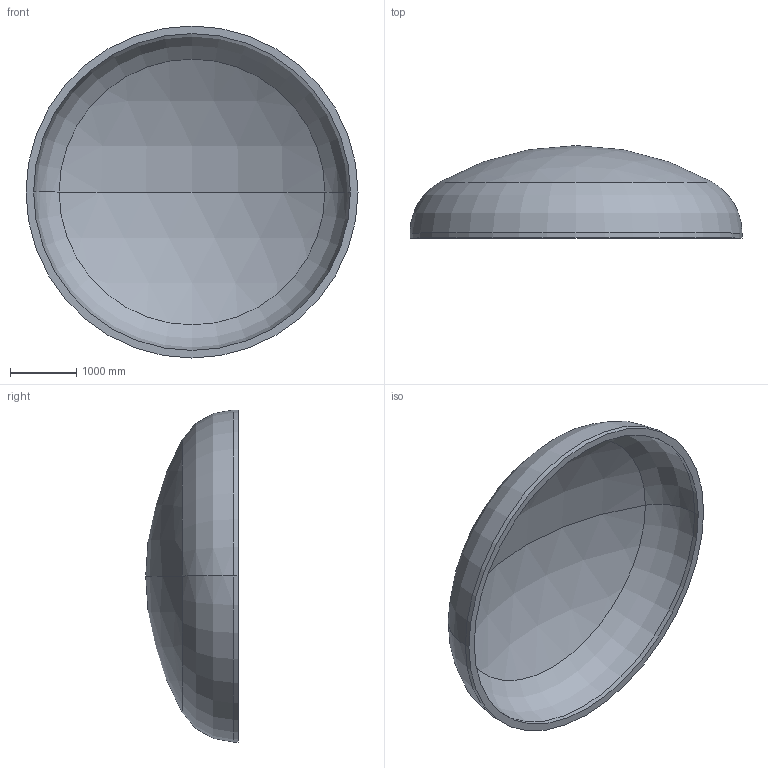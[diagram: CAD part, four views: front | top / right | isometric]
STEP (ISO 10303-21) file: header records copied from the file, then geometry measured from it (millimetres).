
FILE_DESCRIPTION (( 'STEP AP203' ), '1' );
FILE_NAME ('DIN 28013 Korbbogenform_-_Boden DIN 28013 - 5000 x 75 - I - s=114.step', '2016-07-02T01:01:37', ( '' ), ( '' ), 'SwSTEP 2.0', 'SolidWorks 2013', '' );
FILE_SCHEMA (( 'CONFIG_CONTROL_DESIGN' ));
Length unit declared in the file: millimetre
Products named in the file (1): DIN 28013 Korbbogenform_-_Boden DIN 28013 - 5000 x 75 - I - s=114
Bounding box: 5000 x 1392.32 x 5000 mm (x, y, z)
Volume: 3139883384.9 mm3; surface area: 56862752 mm2
Topology: 1 solids, 1 shells, 13 faces, 24 edges, 14 vertices
Faces by surface type: torus 4, cylinder 4, sphere 4, plane 1
Entity records: 407 total; most frequent: DIRECTION 72, CARTESIAN_POINT 52, ORIENTED_EDGE 48, AXIS2_PLACEMENT_3D 34, EDGE_CURVE 24, CIRCLE 20, VERTEX_POINT 14, EDGE_LOOP 14
